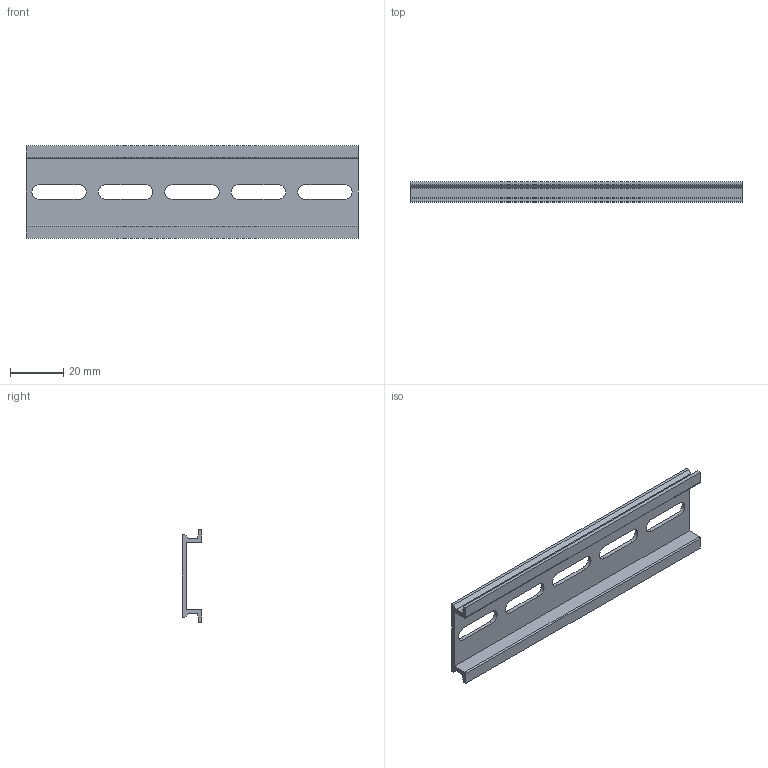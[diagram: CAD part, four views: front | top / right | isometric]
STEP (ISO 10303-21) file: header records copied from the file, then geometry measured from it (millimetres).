
FILE_DESCRIPTION( (''), '2;1');
FILE_NAME ('CVICAD02.15516.DIN-RAIL125_7315.stp','2020-09-01T14:17:59',(''),(''),'spGate 12.6.6','','');
FILE_SCHEMA (('AUTOMOTIVE_DESIGN'));
Length unit declared in the file: millimetre
Bounding box: 125 x 7.5 x 35 mm (x, y, z)
Volume: 8825 mm3; surface area: 11907.9 mm2
Topology: 1 solids, 1 shells, 40 faces, 114 edges, 76 vertices
Faces by surface type: plane 28, cylinder 12
Entity records: 2229 total; most frequent: CARTESIAN_POINT 230, ORIENTED_EDGE 228, DIRECTION 218, COLOUR_RGB 155, PRESENTATION_STYLE_ASSIGNMENT 155, STYLED_ITEM 155, EDGE_CURVE 114, DRAUGHTING_PRE_DEFINED_CURVE_FONT 114
